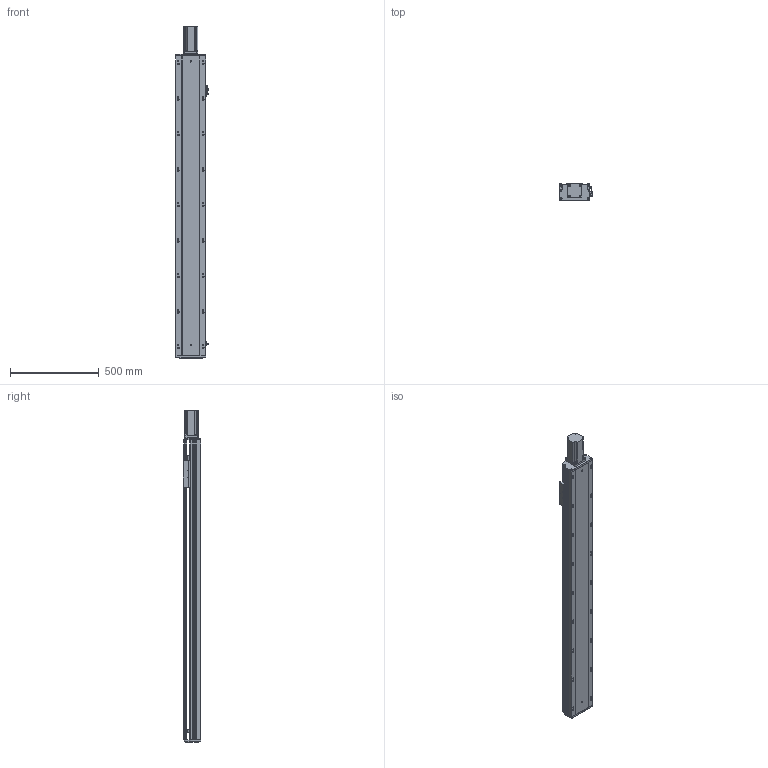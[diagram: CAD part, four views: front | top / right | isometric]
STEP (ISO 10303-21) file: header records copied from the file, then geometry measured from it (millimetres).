
FILE_DESCRIPTION (( 'STEP AP203' ), '1' );
FILE_NAME ('RY170-L2510-1200-MK.SLDASM_1350.step', '2021-02-20T05:12:13', ( '盈信电脑' ), ( '东莞市道滘镇水果街19号' ), 'SwSTEP 2.0', 'SolidWorks 2012', '' );
FILE_SCHEMA (( 'CONFIG_CONTROL_DESIGN' ));
Length unit declared in the file: millimetre
Products named in the file (12): 侂狟750W萇儂ㄗ80遺ㄘ; RY170-L2510-1200-MK.SLDASM_1350; 750W萇儂梓袧蛌諉啣; 滅袉蝶18-28; 滅袉蝶18-15; RY170ヶ醱裔啣; 覜茼ん672; RY170綴裔啣; RY170外置感应片(200共用）; RY170-1200倰第菁釱-MK_1350; RY170臏賑輸25佪裝蹟譫; RY170-1200倰第裔啣-MK_1350
Assembly tree (13 placements, depth 2):
  RY170-L2510-1200-MK.SLDASM_1350
    RY170-1200倰第菁釱-MK_1350
    RY170-1200倰第裔啣-MK_1350
    RY170臏賑輸25佪裝蹟譫
    RY170綴裔啣
    覜茼ん672  x3
    RY170外置感应片(200共用）
    RY170ヶ醱裔啣
    滅袉蝶18-28
    滅袉蝶18-15
    750W萇儂梓袧蛌諉啣
    侂狟750W萇儂ㄗ80遺ㄘ
Bounding box: 183.7 x 97 x 1871 mm (x, y, z)
Volume: 8712481.8 mm3; surface area: 2774187.2 mm2
Topology: 13 solids, 13 shells, 1700 faces, 5007 edges, 3174 vertices
Faces by surface type: cylinder 786, plane 711, cone 199, bspline 4
Entity records: 54362 total; most frequent: CARTESIAN_POINT 12508, ORIENTED_EDGE 8710, DIRECTION 8338, EDGE_CURVE 4355, AXIS2_PLACEMENT_3D 2952, VERTEX_POINT 2854, LINE 2434, VECTOR 2434
